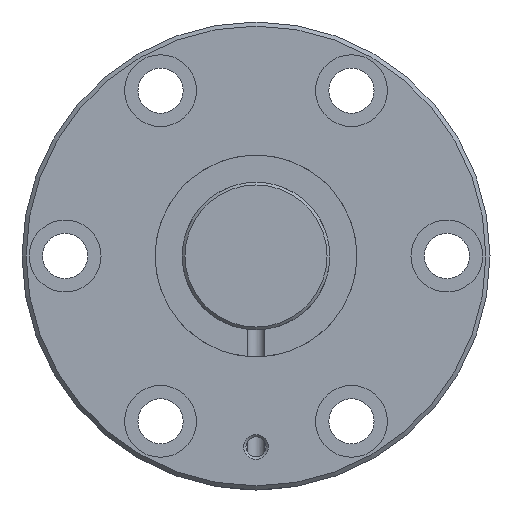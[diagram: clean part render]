
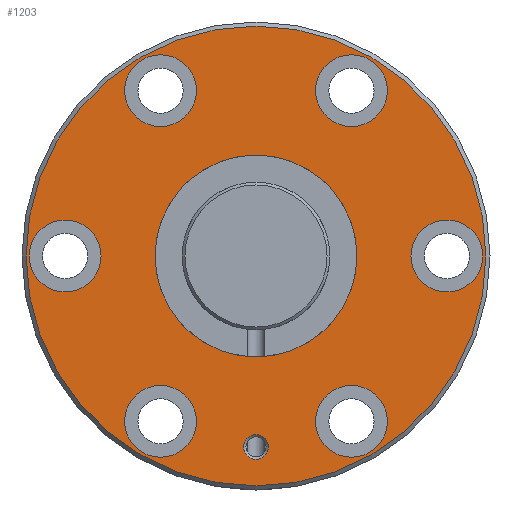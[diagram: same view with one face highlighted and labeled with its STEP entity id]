
A CAD part, left-side view. The second image highlights one B-rep face of the part: STEP entity #1203.
In plain terms, the highlighted planar face has unit normal (-1, 0, 0).
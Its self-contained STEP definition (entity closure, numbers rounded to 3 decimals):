
#277=ORIENTED_EDGE('',*,*,#507,.T.);
#278=ORIENTED_EDGE('',*,*,#561,.T.);
#279=ORIENTED_EDGE('',*,*,#562,.T.);
#280=ORIENTED_EDGE('',*,*,#563,.T.);
#281=ORIENTED_EDGE('',*,*,#564,.T.);
#282=ORIENTED_EDGE('',*,*,#565,.T.);
#283=ORIENTED_EDGE('',*,*,#566,.T.);
#284=ORIENTED_EDGE('',*,*,#567,.T.);
#285=ORIENTED_EDGE('',*,*,#560,.F.);
#507=EDGE_CURVE('',#656,#656,#764,.T.);
#560=EDGE_CURVE('',#703,#703,#775,.T.);
#561=EDGE_CURVE('',#704,#704,#776,.F.);
#562=EDGE_CURVE('',#705,#705,#777,.T.);
#563=EDGE_CURVE('',#706,#706,#778,.T.);
#564=EDGE_CURVE('',#707,#707,#779,.T.);
#565=EDGE_CURVE('',#708,#708,#780,.T.);
#566=EDGE_CURVE('',#709,#709,#781,.T.);
#567=EDGE_CURVE('',#710,#710,#782,.T.);
#656=VERTEX_POINT('',#1986);
#703=VERTEX_POINT('',#2152);
#704=VERTEX_POINT('',#2155);
#705=VERTEX_POINT('',#2157);
#706=VERTEX_POINT('',#2159);
#707=VERTEX_POINT('',#2161);
#708=VERTEX_POINT('',#2163);
#709=VERTEX_POINT('',#2165);
#710=VERTEX_POINT('',#2167);
#764=CIRCLE('',#1316,24.6);
#775=CIRCLE('',#1339,56.);
#776=CIRCLE('',#1341,8.75);
#777=CIRCLE('',#1342,3.);
#778=CIRCLE('',#1343,8.75);
#779=CIRCLE('',#1344,8.75);
#780=CIRCLE('',#1345,8.75);
#781=CIRCLE('',#1346,8.75);
#782=CIRCLE('',#1347,8.75);
#872=EDGE_LOOP('',(#277));
#873=EDGE_LOOP('',(#278));
#874=EDGE_LOOP('',(#279));
#875=EDGE_LOOP('',(#280));
#876=EDGE_LOOP('',(#281));
#877=EDGE_LOOP('',(#282));
#878=EDGE_LOOP('',(#283));
#879=EDGE_LOOP('',(#284));
#880=EDGE_LOOP('',(#285));
#1022=FACE_BOUND('',#872,.T.);
#1023=FACE_BOUND('',#873,.T.);
#1024=FACE_BOUND('',#874,.T.);
#1025=FACE_BOUND('',#875,.T.);
#1026=FACE_BOUND('',#876,.T.);
#1027=FACE_BOUND('',#877,.T.);
#1028=FACE_BOUND('',#878,.T.);
#1029=FACE_BOUND('',#879,.T.);
#1030=FACE_BOUND('',#880,.T.);
#1151=PLANE('',#1340);
#1203=ADVANCED_FACE('',(#1022,#1023,#1024,#1025,#1026,#1027,#1028,#1029,
#1030),#1151,.T.);
#1316=AXIS2_PLACEMENT_3D('',#1985,#1520,#1521);
#1339=AXIS2_PLACEMENT_3D('',#2151,#1602,#1603);
#1340=AXIS2_PLACEMENT_3D('',#2153,#1604,#1605);
#1341=AXIS2_PLACEMENT_3D('',#2154,#1606,#1607);
#1342=AXIS2_PLACEMENT_3D('',#2156,#1608,#1609);
#1343=AXIS2_PLACEMENT_3D('',#2158,#1610,#1611);
#1344=AXIS2_PLACEMENT_3D('',#2160,#1612,#1613);
#1345=AXIS2_PLACEMENT_3D('',#2162,#1614,#1615);
#1346=AXIS2_PLACEMENT_3D('',#2164,#1616,#1617);
#1347=AXIS2_PLACEMENT_3D('',#2166,#1618,#1619);
#1520=DIRECTION('',(1.,0.,0.));
#1521=DIRECTION('',(0.,0.,-1.));
#1602=DIRECTION('',(1.,0.,0.));
#1603=DIRECTION('',(0.,0.,-1.));
#1604=DIRECTION('',(-1.,0.,0.));
#1605=DIRECTION('',(0.,0.,1.));
#1606=DIRECTION('',(-1.,0.,0.));
#1607=DIRECTION('',(0.,0.,1.));
#1608=DIRECTION('',(1.,0.,0.));
#1609=DIRECTION('',(0.,1.,0.));
#1610=DIRECTION('',(1.,0.,0.));
#1611=DIRECTION('',(0.,0.,-1.));
#1612=DIRECTION('',(1.,0.,0.));
#1613=DIRECTION('',(0.,0.,-1.));
#1614=DIRECTION('',(1.,0.,0.));
#1615=DIRECTION('',(0.,0.,-1.));
#1616=DIRECTION('',(1.,0.,0.));
#1617=DIRECTION('',(0.,0.,-1.));
#1618=DIRECTION('',(1.,0.,0.));
#1619=DIRECTION('',(0.,0.,-1.));
#1985=CARTESIAN_POINT('',(0.,0.,0.));
#1986=CARTESIAN_POINT('',(0.,0.,-24.6));
#2151=CARTESIAN_POINT('',(0.,0.,0.));
#2152=CARTESIAN_POINT('',(0.,0.,-56.));
#2153=CARTESIAN_POINT('',(0.,56.,0.));
#2154=CARTESIAN_POINT('',(0.,46.5,0.));
#2155=CARTESIAN_POINT('',(0.,46.5,8.75));
#2156=CARTESIAN_POINT('',(0.,0.,-46.5));
#2157=CARTESIAN_POINT('',(0.,3.,-46.5));
#2158=CARTESIAN_POINT('',(0.,23.25,40.27));
#2159=CARTESIAN_POINT('',(0.,23.25,31.52));
#2160=CARTESIAN_POINT('',(0.,-23.25,-40.27));
#2161=CARTESIAN_POINT('',(0.,-23.25,-49.02));
#2162=CARTESIAN_POINT('',(0.,-23.25,40.27));
#2163=CARTESIAN_POINT('',(0.,-23.25,31.52));
#2164=CARTESIAN_POINT('',(0.,23.25,-40.27));
#2165=CARTESIAN_POINT('',(0.,23.25,-49.02));
#2166=CARTESIAN_POINT('',(0.,-46.5,0.));
#2167=CARTESIAN_POINT('',(0.,-46.5,-8.75));
